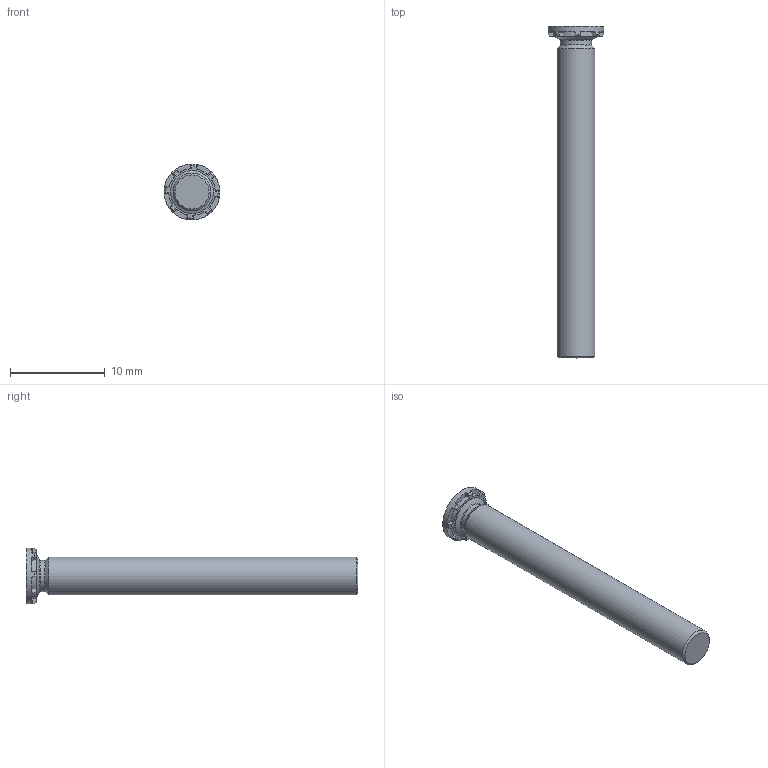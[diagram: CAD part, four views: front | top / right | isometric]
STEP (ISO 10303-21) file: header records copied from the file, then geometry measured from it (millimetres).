
FILE_DESCRIPTION(/* description */ (''),/* implementation_level */ '2;1');
FILE_NAME(/* name */ 'C:\Users\keval.kumar\Desktop\Fastit\Clinch Screw- FH Range\M4\Clinch Screw-FH Range_M4x35.stp',/* time_stamp */ '2024-03-12T11:58:23+05:00',/* author */ ('keval.kumar'),/* organization */ (''),/* preprocessor_version */ 'ST-DEVELOPER v18.1',/* originating_system */ 'Autodesk Inventor 2022',/* authorisation */ '');
FILE_SCHEMA (('AUTOMOTIVE_DESIGN { 1 0 10303 214 3 1 1 }'));
Length unit declared in the file: millimetre
Products named in the file (1): Clinch Screw-FH Range_M4x35
Bounding box: 5.9 x 35 x 5.9 mm (x, y, z)
Volume: 449.5 mm3; surface area: 501.6 mm2
Topology: 1 solids, 1 shells, 68 faces, 193 edges, 128 vertices
Faces by surface type: plane 43, cylinder 12, cone 11, torus 2
Full cylindrical faces by diameter (mm): 3.3 x1, 4 x1, 4.5 x1, 5.9 x1
Entity records: 2286 total; most frequent: DIRECTION 413, CARTESIAN_POINT 406, ORIENTED_EDGE 386, EDGE_CURVE 193, AXIS2_PLACEMENT_3D 159, VERTEX_POINT 128, LINE 95, VECTOR 95
